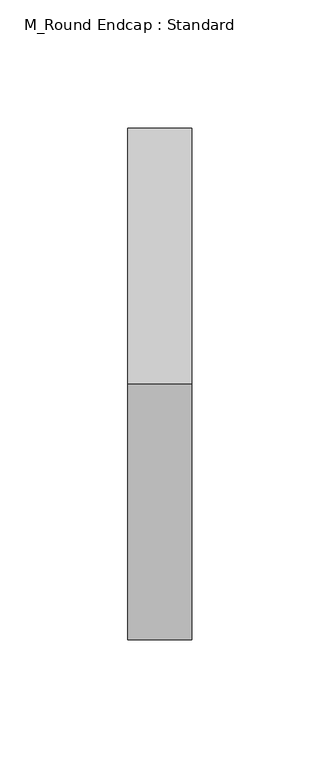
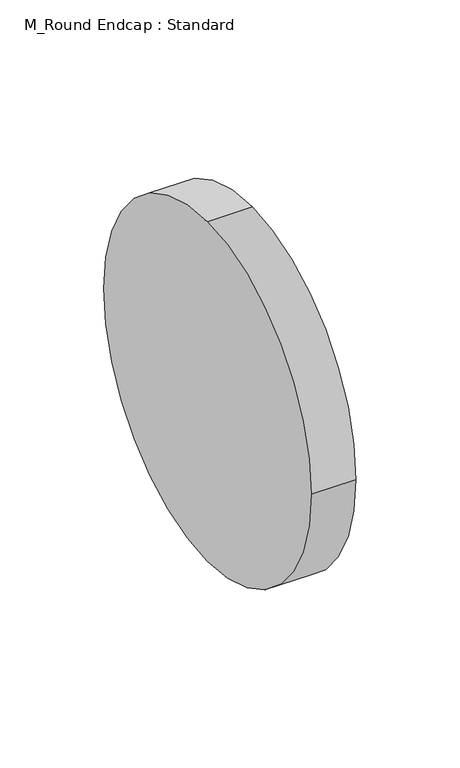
"""IFC4 building model written with IfcOpenShell, lengths in millimetres: duct fitting geometry, M_Round Endcap : Standard."""

from ifc_helpers import new_model, si_unit, point, frame, origin, origin_2d, place, context, project, spatial, circle_curve, trimmed, segment, composite_curve, outline, extrude, source, transform, mapped, element, save


def m_round_endcap_standard_5afedfd2(model_context):
    return source(origin(), model_context, "Body", "SweptSolid", [
        extrude(outline(composite_curve([segment(trimmed(circle_curve(origin_2d(), 100.0), [point((0.0, 100.0))], [point((100.0, 0.0))], False, "CARTESIAN"), True, "CONTINUOUS"), segment(trimmed(circle_curve(origin_2d(), 100.0), [point((100.0, 0.0))], [point((0.0, -100.0))], False, "CARTESIAN"), True, "CONTINUOUS"), segment(trimmed(circle_curve(origin_2d(), 100.0), [point((0.0, -100.0))], [point((-100.0, 0.0))], False, "CARTESIAN"), True, "CONTINUOUS"), segment(trimmed(circle_curve(origin_2d(), 100.0), [point((-100.0, 0.0))], [point((0.0, 100.0))], False, "CARTESIAN"), True, "CONTINUOUS")], self_intersect=False)), frame((0.0, 0.0, 0.0), z_axis=(1.0, 0.0, 0.0), x_axis=(0.0, 1.0, 0.0)), (0.0, 0.0, 1.0), 25.0),
        extrude(outline(composite_curve([segment(trimmed(circle_curve(origin_2d(), 100.0), [point((0.0, 100.0))], [point((100.0, 0.0))], False, "CARTESIAN"), True, "CONTINUOUS"), segment(trimmed(circle_curve(origin_2d(), 100.0), [point((100.0, 0.0))], [point((0.0, -100.0))], False, "CARTESIAN"), True, "CONTINUOUS"), segment(trimmed(circle_curve(origin_2d(), 100.0), [point((0.0, -100.0))], [point((-100.0, 0.0))], False, "CARTESIAN"), True, "CONTINUOUS"), segment(trimmed(circle_curve(origin_2d(), 100.0), [point((-100.0, 0.0))], [point((0.0, 100.0))], False, "CARTESIAN"), True, "CONTINUOUS")], self_intersect=False)), frame((0.0, 0.0, 0.0), z_axis=(1.0, 0.0, 0.0), x_axis=(0.0, 1.0, 0.0)), (0.0, 0.0, 1.0), 25.0),
        extrude(outline(composite_curve([segment(trimmed(circle_curve(origin_2d(), 100.0), [point((0.0, 100.0))], [point((100.0, 0.0))], False, "CARTESIAN"), True, "CONTINUOUS"), segment(trimmed(circle_curve(origin_2d(), 100.0), [point((100.0, 0.0))], [point((0.0, -100.0))], False, "CARTESIAN"), True, "CONTINUOUS"), segment(trimmed(circle_curve(origin_2d(), 100.0), [point((0.0, -100.0))], [point((-100.0, 0.0))], False, "CARTESIAN"), True, "CONTINUOUS"), segment(trimmed(circle_curve(origin_2d(), 100.0), [point((-100.0, 0.0))], [point((0.0, 100.0))], False, "CARTESIAN"), True, "CONTINUOUS")], self_intersect=False)), frame((0.0, 0.0, 0.0), z_axis=(1.0, 0.0, 0.0), x_axis=(0.0, 1.0, 0.0)), (0.0, 0.0, 1.0), 25.0),
    ])


if __name__ == "__main__":
    model = new_model("IFC4")
    model_context = context("Model", 3, world=origin())
    ifc_project = project(units=[si_unit("LENGTHUNIT", "METRE", prefix="MILLI")], contexts=[model_context])
    site = spatial("IfcSite", under=ifc_project)
    building = spatial("IfcBuilding", under=site)
    placement = place(None, origin())
    m_round_endcap_standard_shape = m_round_endcap_standard_5afedfd2(model_context)
    element("IfcDuctFitting", 1, ObjectType="M_Round Endcap : Standard", at=placement, inside=building, context=model_context, shape_type="MappedRepresentation", body=[
        mapped(m_round_endcap_standard_shape, transform((0.0, 0.0, 0.0), x_axis=(1.0, 0.0, 0.0), y_axis=(0.0, 1.0, 0.0), z_axis=(0.0, 0.0, 1.0))),
    ])
    save(model, "model.ifc")
